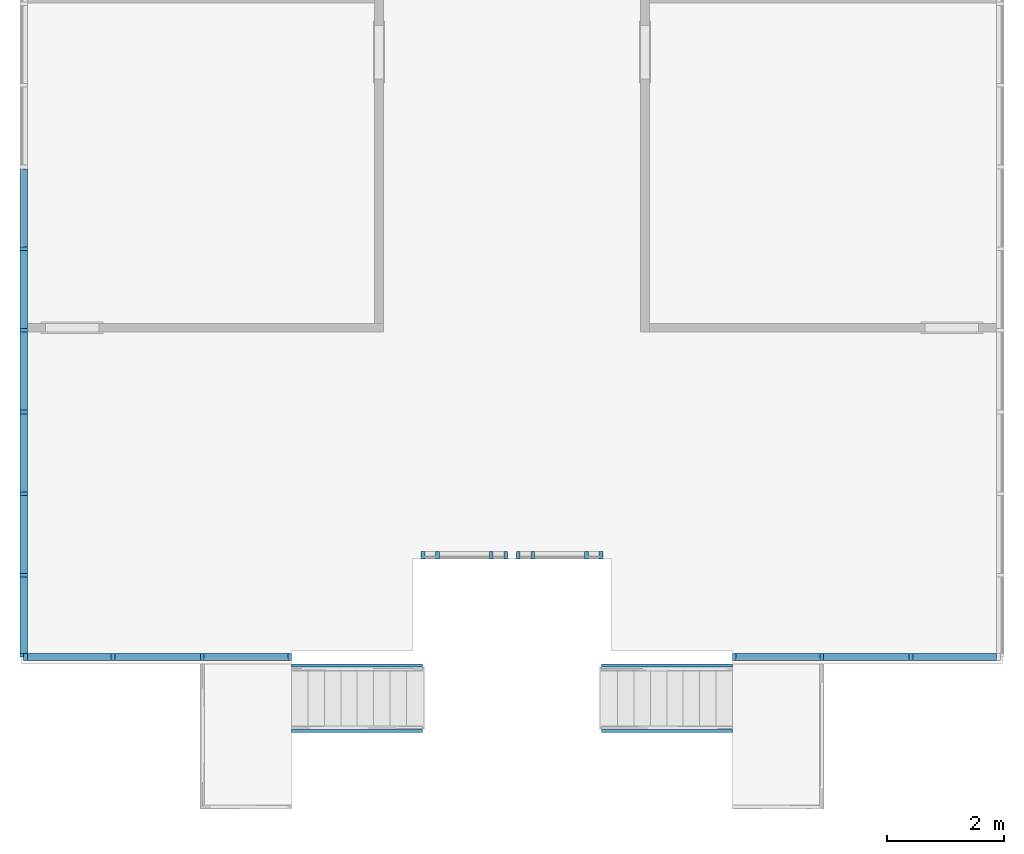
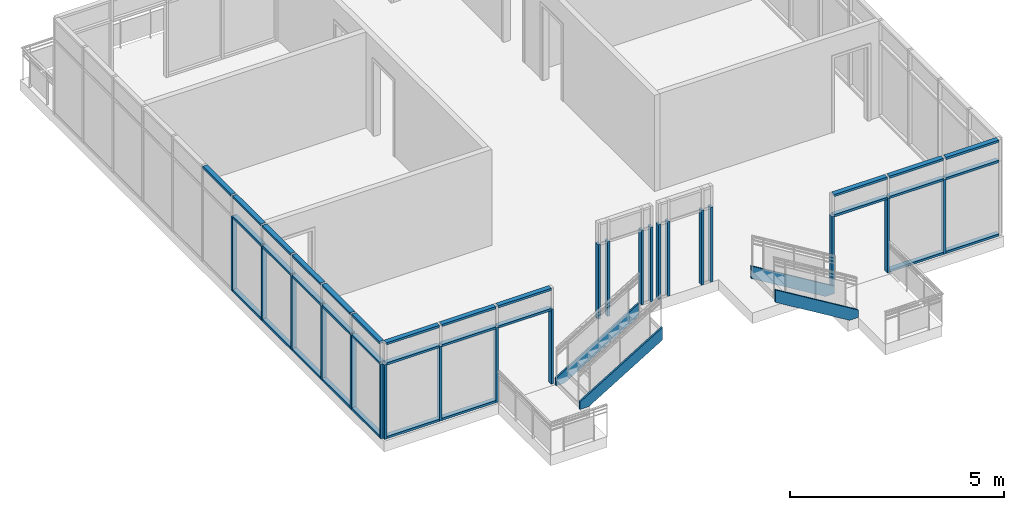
# One storey, part 1 of 11: 57 members, 6 elements without a shape of their own.
"""IFC2X3 building model written with IfcOpenShell, lengths in feet."""

from ifc_helpers import new_model, entity, si_unit, converted_unit, derived_unit, direction, frame, origin, origin_2d_with_axis, place, context, subcontext, project, spatial, polyline, rectangle, outline, extrude, source, transform, mapped, material, type_object, type_shapes, element, aggregate, save


model = new_model("IFC2X3")

# Units and contexts
model_context = context("Model", 3, precision=0.0001, world=origin(), true_north=direction((6.12303176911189e-17, 1.0)))
body_context = subcontext(model_context, "Body", "Model", "MODEL_VIEW")
ifc_project = project(units=[converted_unit("LENGTHUNIT", "FOOT", entity("IfcRatioMeasure", 0.3048), si_unit("LENGTHUNIT", "METRE"), dimensions=[1, 0, 0, 0, 0, 0, 0]), converted_unit("AREAUNIT", "SQUARE FOOT", entity("IfcRatioMeasure", 0.09290304), si_unit("AREAUNIT", "SQUARE_METRE"), dimensions=[2, 0, 0, 0, 0, 0, 0]), converted_unit("VOLUMEUNIT", "CUBIC FOOT", entity("IfcRatioMeasure", 0.028316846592), si_unit("VOLUMEUNIT", "CUBIC_METRE"), dimensions=[3, 0, 0, 0, 0, 0, 0]), converted_unit("PLANEANGLEUNIT", "DEGREE", entity("IfcRatioMeasure", 0.0174532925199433), si_unit("PLANEANGLEUNIT", "RADIAN"), dimensions=[0, 0, 0, 0, 0, 0, 0]), si_unit("MASSUNIT", "GRAM", prefix="KILO"), derived_unit("MASSDENSITYUNIT", [(si_unit("MASSUNIT", "GRAM", prefix="KILO"), 1), (si_unit("LENGTHUNIT", "METRE"), -3)]), si_unit("TIMEUNIT", "SECOND"), si_unit("FREQUENCYUNIT", "HERTZ"), si_unit("THERMODYNAMICTEMPERATUREUNIT", "DEGREE_CELSIUS"), derived_unit("THERMALTRANSMITTANCEUNIT", [(si_unit("MASSUNIT", "GRAM", prefix="KILO"), 1), (si_unit("THERMODYNAMICTEMPERATUREUNIT", "KELVIN"), -1), (si_unit("TIMEUNIT", "SECOND"), -3)]), derived_unit("VOLUMETRICFLOWRATEUNIT", [(si_unit("LENGTHUNIT", "METRE"), 3), (si_unit("TIMEUNIT", "SECOND"), -1)]), si_unit("ELECTRICCURRENTUNIT", "AMPERE"), si_unit("ELECTRICVOLTAGEUNIT", "VOLT"), si_unit("POWERUNIT", "WATT"), si_unit("FORCEUNIT", "NEWTON"), si_unit("ILLUMINANCEUNIT", "LUX"), si_unit("LUMINOUSFLUXUNIT", "LUMEN"), si_unit("LUMINOUSINTENSITYUNIT", "CANDELA"), derived_unit("USERDEFINED", [(si_unit("MASSUNIT", "GRAM", prefix="KILO"), -1), (si_unit("LENGTHUNIT", "METRE"), -2), (si_unit("TIMEUNIT", "SECOND"), 3), (si_unit("LUMINOUSFLUXUNIT", "LUMEN"), 1)]), derived_unit("LINEARVELOCITYUNIT", [(si_unit("LENGTHUNIT", "METRE"), 1), (si_unit("TIMEUNIT", "SECOND"), -1)]), si_unit("PRESSUREUNIT", "PASCAL"), derived_unit("USERDEFINED", [(si_unit("LENGTHUNIT", "METRE"), -2), (si_unit("MASSUNIT", "GRAM", prefix="KILO"), 1), (si_unit("TIMEUNIT", "SECOND"), -2)])], contexts=[model_context])

# Site, building, storey
site_placement = place(None, origin())
site = spatial("IfcSite", under=ifc_project, at=site_placement, Name="Default", CompositionType="ELEMENT")
building_placement = place(site_placement, origin())
building = spatial("IfcBuilding", under=site, at=building_placement, CompositionType="ELEMENT")
storey_placement = place(building_placement, frame((0.0, 0.0, 10.0)))
storey = spatial("IfcBuildingStorey", under=building, at=storey_placement, Name="Level 2", CompositionType="ELEMENT", Elevation=9.99999999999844)

# Stair, members
stair_placement = place(storey_placement, origin())
stair = element("IfcStair", 1, at=stair_placement, inside=storey, Name="Assembled Stair:Stair", ObjectType="Assembled Stair:7\" max riser 11\" tread", ShapeType="NOTDEFINED")
member_type_1 = type_object("IfcMemberType", Name="Stringer:Stringer - 2\" Width", PredefinedType="STRINGER")
member_1_placement = place(stair_placement, origin())
member_1 = element("IfcMember", 2, at=member_1_placement, type_object=member_type_1, Name="Assembled Stair:Stair:189410 Stringer 1", ObjectType="Assembled Stair:7\" max riser 11\" tread", context=body_context, shape_type="SweptSolid", body=[
    extrude(outline(polyline([(-3.29811864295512, -0.519028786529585), (5.27689530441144, -0.519028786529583), (4.67083469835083, 0.480971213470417), (-2.99079942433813, 0.480971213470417), (-3.65881193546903, 0.0761151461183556), (-3.29811864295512, -0.519028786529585)])), frame((-43.2356053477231, -7.50364126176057, 1.96146201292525), z_axis=(0.0, 1.0, 0.0), x_axis=(0.855197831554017, 0.0, 0.518301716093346)), (0.0, 0.0, 1.0), 0.166666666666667),
])
member_2_placement = place(stair_placement, origin())
member_2 = element("IfcMember", 3, at=member_2_placement, type_object=member_type_1, Name="Assembled Stair:Stair:189410 Stringer 2", ObjectType="Assembled Stair:7\" max riser 11\" tread", context=body_context, shape_type="SweptSolid", body=[
    extrude(outline(polyline([(-3.29811864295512, -0.519028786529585), (5.27689530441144, -0.519028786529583), (4.67083469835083, 0.480971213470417), (-2.99079942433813, 0.480971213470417), (-3.65881193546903, 0.0761151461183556), (-3.29811864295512, -0.519028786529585)])), frame((-43.2356053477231, -11.1703079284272, 1.96146201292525), z_axis=(0.0, 1.0, 0.0), x_axis=(0.855197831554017, 0.0, 0.518301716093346)), (0.0, 0.0, 1.0), 0.166666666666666),
])
member_3_placement = place(stair_placement, origin())
member_3 = element("IfcMember", 4, at=member_3_placement, type_object=member_type_1, Name="Assembled Stair:Stair:189410 Stringer 3", ObjectType="Assembled Stair:7\" max riser 11\" tread", context=body_context, shape_type="SweptSolid", body=[
    extrude(outline(polyline([(-3.08955742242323, -1.96146201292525), (-2.30843697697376, -1.96146201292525), (4.2437759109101, 2.00957610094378), (4.24377591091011, 3.17889618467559), (-3.08955742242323, -1.26554825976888), (-3.08955742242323, -1.96146201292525)])), frame((-24.7480535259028, -7.50364126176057, 1.96146201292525), z_axis=(0.0, 1.0, 0.0), x_axis=(-1.0, 0.0, 0.0)), (0.0, 0.0, 1.0), 0.166666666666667),
])
member_4_placement = place(stair_placement, origin())
member_4 = element("IfcMember", 5, at=member_4_placement, type_object=member_type_1, Name="Assembled Stair:Stair:189410 Stringer 4", ObjectType="Assembled Stair:7\" max riser 11\" tread", context=body_context, shape_type="SweptSolid", body=[
    extrude(outline(polyline([(-3.08955742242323, -1.96146201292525), (-2.30843697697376, -1.96146201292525), (4.2437759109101, 2.00957610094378), (4.24377591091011, 3.17889618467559), (-3.08955742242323, -1.26554825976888), (-3.08955742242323, -1.96146201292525)])), frame((-24.7480535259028, -11.1703079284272, 1.96146201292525), z_axis=(0.0, 1.0, 0.0), x_axis=(-1.0, 0.0, 0.0)), (0.0, 0.0, 1.0), 0.166666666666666),
])
aggregate(stair, [member_1, member_2, member_3, member_4])

# Curtain wall, members
curtain_wall_type = type_object("IfcCurtainWallType", Name="Curtain Wall:Storefront 2", PredefinedType="NOTDEFINED")
curtain_wall_1_placement = place(storey_placement, frame((0.0, 0.0, -10.0)))
curtain_wall_1 = element("IfcCurtainWall", 6, at=curtain_wall_1_placement, inside=storey, type_object=curtain_wall_type, Name="Curtain Wall:Storefront 2", ObjectType="Curtain Wall:Storefront 2")
ifc_material = material(Name="Aluminum")
member_type_2 = type_object("IfcMemberType", Name="2.5\" x 5\" rectangular", PredefinedType="MEMBER")
shared_shape_1 = source(origin(), body_context, "Body", "SweptSolid", [
    extrude(rectangle(XDim=0.416666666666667, YDim=0.208333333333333, at=origin_2d_with_axis()), frame((-0.104166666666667, 0.0, -4.6875), z_axis=(0.0, 0.0, 1.0), x_axis=(0.0, -1.0, 0.0)), (0.0, 0.0, 1.0), 4.6875),
])
type_shapes(member_type_2, [shared_shape_1])
member_5_placement = place(storey_placement, frame((-61.1168294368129, -6.94114126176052, 9.0), z_axis=(-1.0, 0.0, 0.0), x_axis=(0.0, 0.0, 1.0)))
member_5 = element("IfcMember", 7, at=member_5_placement, type_object=member_type_2, material=ifc_material, Name="Rectangular Mullion:2.5\" x 5\" rectangular", ObjectType="2.5\" x 5\" rectangular", context=body_context, shape_type="MappedRepresentation", body=[
    mapped(shared_shape_1, transform((0.0, 0.0, 0.0), scale=1.0)),
])
member_6_placement = place(storey_placement, frame((-51.2209961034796, -6.94114126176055, 9.0), z_axis=(-1.0, 0.0, 0.0), x_axis=(0.0, 0.0, 1.0)))
member_6 = element("IfcMember", 8, at=member_6_placement, type_object=member_type_2, material=ifc_material, Name="Rectangular Mullion:2.5\" x 5\" rectangular", ObjectType="2.5\" x 5\" rectangular", context=body_context, shape_type="MappedRepresentation", body=[
    mapped(shared_shape_1, transform((0.0, 0.0, 0.0), scale=1.0)),
])

curtain_wall_2_placement = place(storey_placement, frame((0.0, 0.0, -10.0)))
curtain_wall_2 = element("IfcCurtainWall", 9, at=curtain_wall_2_placement, inside=storey, type_object=curtain_wall_type, Name="Curtain Wall:Storefront 2", ObjectType="Curtain Wall:Storefront 2")
member_7_placement = place(storey_placement, frame((-21.4501627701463, -6.94114126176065, 9.0), z_axis=(-1.0, 0.0, 0.0), x_axis=(0.0, 0.0, 1.0)))
member_7 = element("IfcMember", 10, at=member_7_placement, type_object=member_type_2, material=ifc_material, Name="Rectangular Mullion:2.5\" x 5\" rectangular", ObjectType="2.5\" x 5\" rectangular", context=body_context, shape_type="MappedRepresentation", body=[
    mapped(shared_shape_1, transform((0.0, 0.0, 0.0), scale=1.0)),
])
member_8_placement = place(storey_placement, frame((-11.5543294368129, -6.94114126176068, 9.0), z_axis=(-1.0, 0.0, 0.0), x_axis=(0.0, 0.0, 1.0)))
member_8 = element("IfcMember", 11, at=member_8_placement, type_object=member_type_2, material=ifc_material, Name="Rectangular Mullion:2.5\" x 5\" rectangular", ObjectType="2.5\" x 5\" rectangular", context=body_context, shape_type="MappedRepresentation", body=[
    mapped(shared_shape_1, transform((0.0, 0.0, 0.0), scale=1.0)),
])

# Member
member_type_3 = type_object("IfcMemberType", Name="2.5\" x 5\" rectangular", PredefinedType="MEMBER")
shared_shape_2 = source(origin(), body_context, "Body", "SweptSolid", [
    extrude(rectangle(XDim=0.416666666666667, YDim=0.208333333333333, at=origin_2d_with_axis()), frame((-0.104166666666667, 0.0, -4.6875), z_axis=(0.0, 0.0, 1.0), x_axis=(0.0, -1.0, 0.0)), (0.0, 0.0, 1.0), 4.6875),
])
type_shapes(member_type_3, [shared_shape_2])
member_9_placement = place(storey_placement, frame((-56.429329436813, -6.94114126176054, 0.0), z_axis=(1.0, 0.0, 0.0), x_axis=(0.0, 0.0, -1.0)))
member_9 = element("IfcMember", 12, at=member_9_placement, type_object=member_type_3, material=ifc_material, Name="Rectangular Mullion:2.5\" x 5\" rectangular", ObjectType="2.5\" x 5\" rectangular", context=body_context, shape_type="MappedRepresentation", body=[
    mapped(shared_shape_2, transform((0.0, 0.0, 0.0), scale=1.0)),
])

member_10_placement = place(storey_placement, frame((-6.86682943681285, -6.94114126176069, 0.0), z_axis=(1.0, 0.0, 0.0), x_axis=(0.0, 0.0, -1.0)))
member_10 = element("IfcMember", 13, at=member_10_placement, type_object=member_type_3, material=ifc_material, Name="Rectangular Mullion:2.5\" x 5\" rectangular", ObjectType="2.5\" x 5\" rectangular", context=body_context, shape_type="MappedRepresentation", body=[
    mapped(shared_shape_2, transform((0.0, 0.0, 0.0), scale=1.0)),
])

member_type_4 = type_object("IfcMemberType", Name="2.5\" x 5\" rectangular", PredefinedType="MEMBER")
shared_shape_3 = source(origin(), body_context, "Body", "SweptSolid", [
    extrude(rectangle(XDim=0.416666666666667, YDim=0.208333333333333, at=origin_2d_with_axis()), frame((0.0, 0.0, -4.6875), z_axis=(0.0, 0.0, 1.0), x_axis=(0.0, -1.0, 0.0)), (0.0, 0.0, 1.0), 4.6875),
])
type_shapes(member_type_4, [shared_shape_3])
member_11_placement = place(storey_placement, frame((-51.2209961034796, -6.94114126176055, 7.0), z_axis=(-1.0, 0.0, 0.0), x_axis=(0.0, 0.0, 1.0)))
member_11 = element("IfcMember", 14, at=member_11_placement, type_object=member_type_4, material=ifc_material, Name="Rectangular Mullion:2.5\" x 5\" rectangular", ObjectType="2.5\" x 5\" rectangular", context=body_context, shape_type="MappedRepresentation", body=[
    mapped(shared_shape_3, transform((0.0, 0.0, 0.0), scale=1.0)),
])

member_12_placement = place(storey_placement, frame((-61.1168294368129, -6.94114126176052, 7.0), z_axis=(-1.0, 0.0, 0.0), x_axis=(0.0, 0.0, 1.0)))
member_12 = element("IfcMember", 15, at=member_12_placement, type_object=member_type_4, material=ifc_material, Name="Rectangular Mullion:2.5\" x 5\" rectangular", ObjectType="2.5\" x 5\" rectangular", context=body_context, shape_type="MappedRepresentation", body=[
    mapped(shared_shape_3, transform((0.0, 0.0, 0.0), scale=1.0)),
])

member_13_placement = place(storey_placement, frame((-11.5543294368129, -6.94114126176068, 7.0), z_axis=(-1.0, 0.0, 0.0), x_axis=(0.0, 0.0, 1.0)))
member_13 = element("IfcMember", 16, at=member_13_placement, type_object=member_type_4, material=ifc_material, Name="Rectangular Mullion:2.5\" x 5\" rectangular", ObjectType="2.5\" x 5\" rectangular", context=body_context, shape_type="MappedRepresentation", body=[
    mapped(shared_shape_3, transform((0.0, 0.0, 0.0), scale=1.0)),
])

member_14_placement = place(storey_placement, frame((-21.4501627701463, -6.94114126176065, 7.0), z_axis=(-1.0, 0.0, 0.0), x_axis=(0.0, 0.0, 1.0)))
member_14 = element("IfcMember", 17, at=member_14_placement, type_object=member_type_4, material=ifc_material, Name="Rectangular Mullion:2.5\" x 5\" rectangular", ObjectType="2.5\" x 5\" rectangular", context=body_context, shape_type="MappedRepresentation", body=[
    mapped(shared_shape_3, transform((0.0, 0.0, 0.0), scale=1.0)),
])

member_type_5 = type_object("IfcMemberType", Name="2.5\" x 5\" rectangular", PredefinedType="MEMBER")
shared_shape_4 = source(origin(), body_context, "Body", "SweptSolid", [
    extrude(rectangle(XDim=0.416666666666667, YDim=0.208333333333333, at=origin_2d_with_axis()), frame((-0.104166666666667, 0.0, -4.79166666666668), z_axis=(0.0, 0.0, 1.0), x_axis=(0.0, -1.0, 0.0)), (0.0, 0.0, 1.0), 4.79166666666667),
])
type_shapes(member_type_5, [shared_shape_4])
member_15_placement = place(storey_placement, frame((-56.2209961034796, -6.94114126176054, 9.0), z_axis=(-1.0, 0.0, 0.0), x_axis=(0.0, 0.0, 1.0)))
member_15 = element("IfcMember", 18, at=member_15_placement, type_object=member_type_5, material=ifc_material, Name="Rectangular Mullion:2.5\" x 5\" rectangular", ObjectType="2.5\" x 5\" rectangular", context=body_context, shape_type="MappedRepresentation", body=[
    mapped(shared_shape_4, transform((0.0, 0.0, 0.0), scale=1.0)),
])

member_16_placement = place(storey_placement, frame((-16.554329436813, -6.94114126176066, 9.0), z_axis=(-1.0, 0.0, 0.0), x_axis=(0.0, 0.0, 1.0)))
member_16 = element("IfcMember", 19, at=member_16_placement, type_object=member_type_5, material=ifc_material, Name="Rectangular Mullion:2.5\" x 5\" rectangular", ObjectType="2.5\" x 5\" rectangular", context=body_context, shape_type="MappedRepresentation", body=[
    mapped(shared_shape_4, transform((0.0, 0.0, 0.0), scale=1.0)),
])

member_type_6 = type_object("IfcMemberType", Name="2.5\" x 5\" rectangular", PredefinedType="MEMBER")
shared_shape_5 = source(origin(), body_context, "Body", "SweptSolid", [
    extrude(rectangle(XDim=0.416666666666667, YDim=0.208333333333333, at=origin_2d_with_axis()), frame((-0.104166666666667, 0.0, -7.0), z_axis=(0.0, 0.0, 1.0), x_axis=(0.0, -1.0, 0.0)), (0.0, 0.0, 1.0), 7.0),
])
type_shapes(member_type_6, [shared_shape_5])
member_17_placement = place(storey_placement, frame((-61.3251627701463, -6.94114126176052, 0.0), z_axis=(0.0, 0.0, -1.0), x_axis=(-1.0, 0.0, 0.0)))
member_17 = element("IfcMember", 20, at=member_17_placement, type_object=member_type_6, material=ifc_material, Name="Rectangular Mullion:2.5\" x 5\" rectangular", ObjectType="2.5\" x 5\" rectangular", context=body_context, shape_type="MappedRepresentation", body=[
    mapped(shared_shape_5, transform((0.0, 0.0, 0.0), scale=1.0)),
])

# Curtain wall, member
curtain_wall_3_placement = place(storey_placement, frame((0.0, 0.0, -10.0)))
curtain_wall_3 = element("IfcCurtainWall", 21, at=curtain_wall_3_placement, inside=storey, type_object=curtain_wall_type, Name="Curtain Wall:Storefront 2", ObjectType="Curtain Wall:Storefront 2")
member_18_placement = place(storey_placement, frame((-39.0751627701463, -1.23280792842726, 0.0), z_axis=(0.0, 0.0, -1.0), x_axis=(-1.0, 0.0, 0.0)))
member_18 = element("IfcMember", 22, at=member_18_placement, type_object=member_type_6, material=ifc_material, Name="Rectangular Mullion:2.5\" x 5\" rectangular", ObjectType="2.5\" x 5\" rectangular", context=body_context, shape_type="MappedRepresentation", body=[
    mapped(shared_shape_5, transform((0.0, 0.0, 0.0), scale=1.0)),
])

curtain_wall_4_placement = place(storey_placement, frame((0.0, 0.0, -10.0)))
curtain_wall_4 = element("IfcCurtainWall", 23, at=curtain_wall_4_placement, inside=storey, type_object=curtain_wall_type, Name="Curtain Wall:Storefront 2", ObjectType="Curtain Wall:Storefront 2")
member_19_placement = place(storey_placement, frame((-33.7418294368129, -1.23280792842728, 0.0), z_axis=(0.0, 0.0, -1.0), x_axis=(-1.0, 0.0, 0.0)))
member_19 = element("IfcMember", 24, at=member_19_placement, type_object=member_type_6, material=ifc_material, Name="Rectangular Mullion:2.5\" x 5\" rectangular", ObjectType="2.5\" x 5\" rectangular", context=body_context, shape_type="MappedRepresentation", body=[
    mapped(shared_shape_5, transform((0.0, 0.0, 0.0), scale=1.0)),
])

# Member
member_type_7 = type_object("IfcMemberType", Name="2.5\" x 5\" rectangular", PredefinedType="MEMBER")
shared_shape_6 = source(origin(), body_context, "Body", "SweptSolid", [
    extrude(rectangle(XDim=0.416666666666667, YDim=0.208333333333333, at=origin_2d_with_axis()), frame((-0.104166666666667, 0.0, -7.0), z_axis=(0.0, 0.0, 1.0), x_axis=(0.0, -1.0, 0.0)), (0.0, 0.0, 1.0), 7.0),
])
type_shapes(member_type_7, [shared_shape_6])
member_20_placement = place(storey_placement, frame((-34.2418294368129, -1.23280792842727, 7.0)))
member_20 = element("IfcMember", 25, at=member_20_placement, type_object=member_type_7, material=ifc_material, Name="Rectangular Mullion:2.5\" x 5\" rectangular", ObjectType="2.5\" x 5\" rectangular", context=body_context, shape_type="MappedRepresentation", body=[
    mapped(shared_shape_6, transform((0.0, 0.0, 0.0), scale=1.0)),
])

member_21_placement = place(storey_placement, frame((-28.9084961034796, -1.23280792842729, 7.0)))
member_21 = element("IfcMember", 26, at=member_21_placement, type_object=member_type_7, material=ifc_material, Name="Rectangular Mullion:2.5\" x 5\" rectangular", ObjectType="2.5\" x 5\" rectangular", context=body_context, shape_type="MappedRepresentation", body=[
    mapped(shared_shape_6, transform((0.0, 0.0, 0.0), scale=1.0)),
])

# Curtain wall, member
curtain_wall_5_placement = place(storey_placement, frame((0.0, 0.0, -10.0)))
curtain_wall_5 = element("IfcCurtainWall", 27, at=curtain_wall_5_placement, inside=storey, type_object=curtain_wall_type, Name="Curtain Wall:Storefront 2", ObjectType="Curtain Wall:Storefront 2")
member_22_placement = place(storey_placement, frame((-61.3251627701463, -6.94114126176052, 7.0), z_axis=(0.0, 0.0, 1.0), x_axis=(0.0, -1.0, 0.0)))
member_22 = element("IfcMember", 28, at=member_22_placement, type_object=member_type_7, material=ifc_material, Name="Rectangular Mullion:2.5\" x 5\" rectangular", ObjectType="2.5\" x 5\" rectangular", context=body_context, shape_type="MappedRepresentation", body=[
    mapped(shared_shape_6, transform((0.0, 0.0, 0.0), scale=1.0)),
])

# Member
member_type_8 = type_object("IfcMemberType", Name="2.5\" x 5\" rectangular", PredefinedType="MEMBER")
shared_shape_7 = source(origin(), body_context, "Body", "SweptSolid", [
    extrude(rectangle(XDim=0.416666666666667, YDim=0.208333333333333, at=origin_2d_with_axis()), frame((0.0, 0.0, -4.79166666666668), z_axis=(0.0, 0.0, 1.0), x_axis=(0.0, -1.0, 0.0)), (0.0, 0.0, 1.0), 4.79166666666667),
])
type_shapes(member_type_8, [shared_shape_7])
member_23_placement = place(storey_placement, frame((-56.2209961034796, -6.94114126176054, 7.0), z_axis=(-1.0, 0.0, 0.0), x_axis=(0.0, 0.0, 1.0)))
member_23 = element("IfcMember", 29, at=member_23_placement, type_object=member_type_8, material=ifc_material, Name="Rectangular Mullion:2.5\" x 5\" rectangular", ObjectType="2.5\" x 5\" rectangular", context=body_context, shape_type="MappedRepresentation", body=[
    mapped(shared_shape_7, transform((0.0, 0.0, 0.0), scale=1.0)),
])

member_24_placement = place(storey_placement, frame((-16.554329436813, -6.94114126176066, 7.0), z_axis=(-1.0, 0.0, 0.0), x_axis=(0.0, 0.0, 1.0)))
member_24 = element("IfcMember", 30, at=member_24_placement, type_object=member_type_8, material=ifc_material, Name="Rectangular Mullion:2.5\" x 5\" rectangular", ObjectType="2.5\" x 5\" rectangular", context=body_context, shape_type="MappedRepresentation", body=[
    mapped(shared_shape_7, transform((0.0, 0.0, 0.0), scale=1.0)),
])

member_type_9 = type_object("IfcMemberType", Name="2.5\" x 5\" rectangular", PredefinedType="MEMBER")
shared_shape_8 = source(origin(), body_context, "Body", "SweptSolid", [
    extrude(rectangle(XDim=0.416666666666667, YDim=0.208333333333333, at=origin_2d_with_axis()), frame((0.0, 0.0, -7.0), z_axis=(0.0, 0.0, 1.0), x_axis=(0.0, -1.0, 0.0)), (0.0, 0.0, 1.0), 7.0),
])
type_shapes(member_type_9, [shared_shape_8])
member_25_placement = place(storey_placement, frame((-51.3251627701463, -6.94114126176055, 0.0), z_axis=(0.0, 0.0, -1.0), x_axis=(-1.0, 0.0, 0.0)))
member_25 = element("IfcMember", 31, at=member_25_placement, type_object=member_type_9, material=ifc_material, Name="Rectangular Mullion:2.5\" x 5\" rectangular", ObjectType="2.5\" x 5\" rectangular", context=body_context, shape_type="MappedRepresentation", body=[
    mapped(shared_shape_8, transform((0.0, 0.0, 0.0), scale=1.0)),
])

member_26_placement = place(storey_placement, frame((-56.3251627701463, -6.94114126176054, 0.0), z_axis=(0.0, 0.0, -1.0), x_axis=(-1.0, 0.0, 0.0)))
member_26 = element("IfcMember", 32, at=member_26_placement, type_object=member_type_9, material=ifc_material, Name="Rectangular Mullion:2.5\" x 5\" rectangular", ObjectType="2.5\" x 5\" rectangular", context=body_context, shape_type="MappedRepresentation", body=[
    mapped(shared_shape_8, transform((0.0, 0.0, 0.0), scale=1.0)),
])

member_27_placement = place(storey_placement, frame((-11.6584961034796, -6.94114126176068, 0.0), z_axis=(0.0, 0.0, -1.0), x_axis=(-1.0, 0.0, 0.0)))
member_27 = element("IfcMember", 33, at=member_27_placement, type_object=member_type_9, material=ifc_material, Name="Rectangular Mullion:2.5\" x 5\" rectangular", ObjectType="2.5\" x 5\" rectangular", context=body_context, shape_type="MappedRepresentation", body=[
    mapped(shared_shape_8, transform((0.0, 0.0, 0.0), scale=1.0)),
])

member_28_placement = place(storey_placement, frame((-16.6584961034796, -6.94114126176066, 0.0), z_axis=(0.0, 0.0, -1.0), x_axis=(-1.0, 0.0, 0.0)))
member_28 = element("IfcMember", 34, at=member_28_placement, type_object=member_type_9, material=ifc_material, Name="Rectangular Mullion:2.5\" x 5\" rectangular", ObjectType="2.5\" x 5\" rectangular", context=body_context, shape_type="MappedRepresentation", body=[
    mapped(shared_shape_8, transform((0.0, 0.0, 0.0), scale=1.0)),
])

member_29_placement = place(storey_placement, frame((-35.1584961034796, -1.23280792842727, 0.0), z_axis=(0.0, 0.0, -1.0), x_axis=(-1.0, 0.0, 0.0)))
member_29 = element("IfcMember", 35, at=member_29_placement, type_object=member_type_9, material=ifc_material, Name="Rectangular Mullion:2.5\" x 5\" rectangular", ObjectType="2.5\" x 5\" rectangular", context=body_context, shape_type="MappedRepresentation", body=[
    mapped(shared_shape_8, transform((0.0, 0.0, 0.0), scale=1.0)),
])

member_30_placement = place(storey_placement, frame((-38.1584961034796, -1.23280792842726, 0.0), z_axis=(0.0, 0.0, -1.0), x_axis=(-1.0, 0.0, 0.0)))
member_30 = element("IfcMember", 36, at=member_30_placement, type_object=member_type_9, material=ifc_material, Name="Rectangular Mullion:2.5\" x 5\" rectangular", ObjectType="2.5\" x 5\" rectangular", context=body_context, shape_type="MappedRepresentation", body=[
    mapped(shared_shape_8, transform((0.0, 0.0, 0.0), scale=1.0)),
])

aggregate(curtain_wall_3, [member_18, member_20, member_29, member_30])

member_31_placement = place(storey_placement, frame((-29.8251627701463, -1.23280792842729, 0.0), z_axis=(0.0, 0.0, -1.0), x_axis=(-1.0, 0.0, 0.0)))
member_31 = element("IfcMember", 37, at=member_31_placement, type_object=member_type_9, material=ifc_material, Name="Rectangular Mullion:2.5\" x 5\" rectangular", ObjectType="2.5\" x 5\" rectangular", context=body_context, shape_type="MappedRepresentation", body=[
    mapped(shared_shape_8, transform((0.0, 0.0, 0.0), scale=1.0)),
])

member_32_placement = place(storey_placement, frame((-32.8251627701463, -1.23280792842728, 0.0), z_axis=(0.0, 0.0, -1.0), x_axis=(-1.0, 0.0, 0.0)))
member_32 = element("IfcMember", 38, at=member_32_placement, type_object=member_type_9, material=ifc_material, Name="Rectangular Mullion:2.5\" x 5\" rectangular", ObjectType="2.5\" x 5\" rectangular", context=body_context, shape_type="MappedRepresentation", body=[
    mapped(shared_shape_8, transform((0.0, 0.0, 0.0), scale=1.0)),
])

aggregate(curtain_wall_4, [member_19, member_21, member_31, member_32])

member_33_placement = place(storey_placement, frame((-61.3251627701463, -2.36917156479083, 0.0), z_axis=(0.0, 0.0, -1.0), x_axis=(0.0, 1.0, 0.0)))
member_33 = element("IfcMember", 39, at=member_33_placement, type_object=member_type_9, material=ifc_material, Name="Rectangular Mullion:2.5\" x 5\" rectangular", ObjectType="2.5\" x 5\" rectangular", context=body_context, shape_type="MappedRepresentation", body=[
    mapped(shared_shape_8, transform((0.0, 0.0, 0.0), scale=1.0)),
])

member_34_placement = place(storey_placement, frame((-61.3251627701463, 2.20279813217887, 0.0), z_axis=(0.0, 0.0, -1.0), x_axis=(0.0, 1.0, 0.0)))
member_34 = element("IfcMember", 40, at=member_34_placement, type_object=member_type_9, material=ifc_material, Name="Rectangular Mullion:2.5\" x 5\" rectangular", ObjectType="2.5\" x 5\" rectangular", context=body_context, shape_type="MappedRepresentation", body=[
    mapped(shared_shape_8, transform((0.0, 0.0, 0.0), scale=1.0)),
])

member_35_placement = place(storey_placement, frame((-61.3251627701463, 6.77476782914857, 0.0), z_axis=(0.0, 0.0, -1.0), x_axis=(0.0, 1.0, 0.0)))
member_35 = element("IfcMember", 41, at=member_35_placement, type_object=member_type_9, material=ifc_material, Name="Rectangular Mullion:2.5\" x 5\" rectangular", ObjectType="2.5\" x 5\" rectangular", context=body_context, shape_type="MappedRepresentation", body=[
    mapped(shared_shape_8, transform((0.0, 0.0, 0.0), scale=1.0)),
])

member_36_placement = place(storey_placement, frame((-61.3251627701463, 11.3467375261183, 0.0), z_axis=(0.0, 0.0, -1.0), x_axis=(0.0, 1.0, 0.0)))
member_36 = element("IfcMember", 42, at=member_36_placement, type_object=member_type_9, material=ifc_material, Name="Rectangular Mullion:2.5\" x 5\" rectangular", ObjectType="2.5\" x 5\" rectangular", context=body_context, shape_type="MappedRepresentation", body=[
    mapped(shared_shape_8, transform((0.0, 0.0, 0.0), scale=1.0)),
])

member_37_placement = place(storey_placement, frame((-61.3251627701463, 15.918707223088, 0.0), z_axis=(0.0, 0.0, -1.0), x_axis=(0.0, 1.0, 0.0)))
member_37 = element("IfcMember", 43, at=member_37_placement, type_object=member_type_9, material=ifc_material, Name="Rectangular Mullion:2.5\" x 5\" rectangular", ObjectType="2.5\" x 5\" rectangular", context=body_context, shape_type="MappedRepresentation", body=[
    mapped(shared_shape_8, transform((0.0, 0.0, 0.0), scale=1.0)),
])

member_type_10 = type_object("IfcMemberType", Name="2.5\" x 5\" rectangular", PredefinedType="MEMBER")
shared_shape_9 = source(origin(), body_context, "Body", "SweptSolid", [
    extrude(rectangle(XDim=0.416666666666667, YDim=0.208333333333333, at=origin_2d_with_axis()), frame((-0.104166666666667, 0.0, -7.0), z_axis=(0.0, 0.0, 1.0), x_axis=(0.0, -1.0, 0.0)), (0.0, 0.0, 1.0), 7.0),
])
type_shapes(member_type_10, [shared_shape_9])
member_38_placement = place(storey_placement, frame((-46.3251627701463, -6.94114126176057, 7.0)))
member_38 = element("IfcMember", 44, at=member_38_placement, type_object=member_type_10, material=ifc_material, Name="Rectangular Mullion:2.5\" x 5\" rectangular", ObjectType="2.5\" x 5\" rectangular", context=body_context, shape_type="MappedRepresentation", body=[
    mapped(shared_shape_9, transform((0.0, 0.0, 0.0), scale=1.0)),
])

member_type_11 = type_object("IfcMemberType", Name="2.5\" x 5\" rectangular", PredefinedType="MEMBER")
shared_shape_10 = source(origin(), body_context, "Body", "SweptSolid", [
    extrude(rectangle(XDim=0.416666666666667, YDim=0.208333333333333, at=origin_2d_with_axis()), frame((-0.104166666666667, 0.0, -4.79166666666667), z_axis=(0.0, 0.0, 1.0), x_axis=(0.0, -1.0, 0.0)), (0.0, 0.0, 1.0), 4.79166666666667),
])
type_shapes(member_type_11, [shared_shape_10])
member_39_placement = place(storey_placement, frame((-51.4293294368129, -6.94114126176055, 0.0), z_axis=(1.0, 0.0, 0.0), x_axis=(0.0, 0.0, -1.0)))
member_39 = element("IfcMember", 45, at=member_39_placement, type_object=member_type_11, material=ifc_material, Name="Rectangular Mullion:2.5\" x 5\" rectangular", ObjectType="2.5\" x 5\" rectangular", context=body_context, shape_type="MappedRepresentation", body=[
    mapped(shared_shape_10, transform((0.0, 0.0, 0.0), scale=1.0)),
])

aggregate(curtain_wall_1, [member_5, member_6, member_15, member_9, member_17, member_38, member_11, member_23, member_12, member_25, member_26, member_39])

member_40_placement = place(storey_placement, frame((-11.7626627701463, -6.94114126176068, 0.0), z_axis=(1.0, 0.0, 0.0), x_axis=(0.0, 0.0, -1.0)))
member_40 = element("IfcMember", 46, at=member_40_placement, type_object=member_type_11, material=ifc_material, Name="Rectangular Mullion:2.5\" x 5\" rectangular", ObjectType="2.5\" x 5\" rectangular", context=body_context, shape_type="MappedRepresentation", body=[
    mapped(shared_shape_10, transform((0.0, 0.0, 0.0), scale=1.0)),
])

member_type_12 = type_object("IfcMemberType", Name="2.5\" x 5\" rectangular", PredefinedType="MEMBER")
shared_shape_11 = source(origin(), body_context, "Body", "SweptSolid", [
    extrude(rectangle(XDim=0.416666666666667, YDim=0.208333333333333, at=origin_2d_with_axis()), frame((-0.104166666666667, 0.0, -7.0), z_axis=(0.0, 0.0, 1.0), x_axis=(0.0, -1.0, 0.0)), (0.0, 0.0, 1.0), 7.0),
])
type_shapes(member_type_12, [shared_shape_11])
member_41_placement = place(storey_placement, frame((-21.6584961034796, -6.94114126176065, 0.0), z_axis=(0.0, 0.0, -1.0), x_axis=(-1.0, 0.0, 0.0)))
member_41 = element("IfcMember", 47, at=member_41_placement, type_object=member_type_12, material=ifc_material, Name="Rectangular Mullion:2.5\" x 5\" rectangular", ObjectType="2.5\" x 5\" rectangular", context=body_context, shape_type="MappedRepresentation", body=[
    mapped(shared_shape_11, transform((0.0, 0.0, 0.0), scale=1.0)),
])

aggregate(curtain_wall_2, [member_7, member_8, member_16, member_10, member_41, member_13, member_24, member_14, member_27, member_28, member_40])

member_type_13 = type_object("IfcMemberType", Name="2.5\" x 5\" rectangular", PredefinedType="MEMBER")
shared_shape_12 = source(origin(), body_context, "Body", "SweptSolid", [
    extrude(rectangle(XDim=0.416666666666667, YDim=0.208333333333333, at=origin_2d_with_axis()), frame((-0.104166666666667, 0.0, -4.25946969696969), z_axis=(0.0, 0.0, 1.0), x_axis=(0.0, -1.0, 0.0)), (0.0, 0.0, 1.0), 4.2594696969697),
])
type_shapes(member_type_13, [shared_shape_12])
member_42_placement = place(storey_placement, frame((-61.3251627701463, -2.47333823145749, 9.0), z_axis=(0.0, 1.0, 0.0), x_axis=(0.0, 0.0, 1.0)))
member_42 = element("IfcMember", 48, at=member_42_placement, type_object=member_type_13, material=ifc_material, Name="Rectangular Mullion:2.5\" x 5\" rectangular", ObjectType="2.5\" x 5\" rectangular", context=body_context, shape_type="MappedRepresentation", body=[
    mapped(shared_shape_12, transform((0.0, 0.0, 0.0), scale=1.0)),
])

member_type_14 = type_object("IfcMemberType", Name="2.5\" x 5\" rectangular", PredefinedType="MEMBER")
shared_shape_13 = source(origin(), body_context, "Body", "SweptSolid", [
    extrude(rectangle(XDim=0.416666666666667, YDim=0.208333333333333, at=origin_2d_with_axis()), frame((-0.104166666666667, 0.0, -4.36363636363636), z_axis=(0.0, 0.0, 1.0), x_axis=(0.0, -1.0, 0.0)), (0.0, 0.0, 1.0), 4.36363636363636),
])
type_shapes(member_type_14, [shared_shape_13])
member_43_placement = place(storey_placement, frame((-61.3251627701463, 2.0986314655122, 9.0), z_axis=(0.0, 1.0, 0.0), x_axis=(0.0, 0.0, 1.0)))
member_43 = element("IfcMember", 49, at=member_43_placement, type_object=member_type_14, material=ifc_material, Name="Rectangular Mullion:2.5\" x 5\" rectangular", ObjectType="2.5\" x 5\" rectangular", context=body_context, shape_type="MappedRepresentation", body=[
    mapped(shared_shape_13, transform((0.0, 0.0, 0.0), scale=1.0)),
])

member_44_placement = place(storey_placement, frame((-61.3251627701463, 6.6706011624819, 9.0), z_axis=(0.0, 1.0, 0.0), x_axis=(0.0, 0.0, 1.0)))
member_44 = element("IfcMember", 50, at=member_44_placement, type_object=member_type_14, material=ifc_material, Name="Rectangular Mullion:2.5\" x 5\" rectangular", ObjectType="2.5\" x 5\" rectangular", context=body_context, shape_type="MappedRepresentation", body=[
    mapped(shared_shape_13, transform((0.0, 0.0, 0.0), scale=1.0)),
])

member_45_placement = place(storey_placement, frame((-61.3251627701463, 11.2425708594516, 9.0), z_axis=(0.0, 1.0, 0.0), x_axis=(0.0, 0.0, 1.0)))
member_45 = element("IfcMember", 51, at=member_45_placement, type_object=member_type_14, material=ifc_material, Name="Rectangular Mullion:2.5\" x 5\" rectangular", ObjectType="2.5\" x 5\" rectangular", context=body_context, shape_type="MappedRepresentation", body=[
    mapped(shared_shape_13, transform((0.0, 0.0, 0.0), scale=1.0)),
])

member_46_placement = place(storey_placement, frame((-61.3251627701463, 15.8145405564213, 9.0), z_axis=(0.0, 1.0, 0.0), x_axis=(0.0, 0.0, 1.0)))
member_46 = element("IfcMember", 52, at=member_46_placement, type_object=member_type_14, material=ifc_material, Name="Rectangular Mullion:2.5\" x 5\" rectangular", ObjectType="2.5\" x 5\" rectangular", context=body_context, shape_type="MappedRepresentation", body=[
    mapped(shared_shape_13, transform((0.0, 0.0, 0.0), scale=1.0)),
])

member_47_placement = place(storey_placement, frame((-61.3251627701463, 20.386510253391, 9.0), z_axis=(0.0, 1.0, 0.0), x_axis=(0.0, 0.0, 1.0)))
member_47 = element("IfcMember", 53, at=member_47_placement, type_object=member_type_14, material=ifc_material, Name="Rectangular Mullion:2.5\" x 5\" rectangular", ObjectType="2.5\" x 5\" rectangular", context=body_context, shape_type="MappedRepresentation", body=[
    mapped(shared_shape_13, transform((0.0, 0.0, 0.0), scale=1.0)),
])

member_type_15 = type_object("IfcMemberType", Name="2.5\" x 5\" rectangular", PredefinedType="MEMBER")
shared_shape_14 = source(origin(), body_context, "Body", "SweptSolid", [
    extrude(rectangle(XDim=0.416666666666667, YDim=0.208333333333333, at=origin_2d_with_axis()), frame((-0.104166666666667, 0.0, -4.25946969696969), z_axis=(0.0, 0.0, 1.0), x_axis=(0.0, -1.0, 0.0)), (0.0, 0.0, 1.0), 4.25946969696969),
])
type_shapes(member_type_15, [shared_shape_14])
member_48_placement = place(storey_placement, frame((-61.3251627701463, -6.73280792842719, 0.0), z_axis=(0.0, -1.0, 0.0), x_axis=(0.0, 0.0, -1.0)))
member_48 = element("IfcMember", 54, at=member_48_placement, type_object=member_type_15, material=ifc_material, Name="Rectangular Mullion:2.5\" x 5\" rectangular", ObjectType="2.5\" x 5\" rectangular", context=body_context, shape_type="MappedRepresentation", body=[
    mapped(shared_shape_14, transform((0.0, 0.0, 0.0), scale=1.0)),
])

member_type_16 = type_object("IfcMemberType", Name="2.5\" x 5\" rectangular", PredefinedType="MEMBER")
shared_shape_15 = source(origin(), body_context, "Body", "SweptSolid", [
    extrude(rectangle(XDim=0.416666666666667, YDim=0.208333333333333, at=origin_2d_with_axis()), frame((-0.104166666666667, 0.0, -4.36363636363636), z_axis=(0.0, 0.0, 1.0), x_axis=(0.0, -1.0, 0.0)), (0.0, 0.0, 1.0), 4.36363636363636),
])
type_shapes(member_type_16, [shared_shape_15])
member_49_placement = place(storey_placement, frame((-61.3251627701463, -2.26500489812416, 0.0), z_axis=(0.0, -1.0, 0.0), x_axis=(0.0, 0.0, -1.0)))
member_49 = element("IfcMember", 55, at=member_49_placement, type_object=member_type_16, material=ifc_material, Name="Rectangular Mullion:2.5\" x 5\" rectangular", ObjectType="2.5\" x 5\" rectangular", context=body_context, shape_type="MappedRepresentation", body=[
    mapped(shared_shape_15, transform((0.0, 0.0, 0.0), scale=1.0)),
])

member_50_placement = place(storey_placement, frame((-61.3251627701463, 2.30696479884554, 0.0), z_axis=(0.0, -1.0, 0.0), x_axis=(0.0, 0.0, -1.0)))
member_50 = element("IfcMember", 56, at=member_50_placement, type_object=member_type_16, material=ifc_material, Name="Rectangular Mullion:2.5\" x 5\" rectangular", ObjectType="2.5\" x 5\" rectangular", context=body_context, shape_type="MappedRepresentation", body=[
    mapped(shared_shape_15, transform((0.0, 0.0, 0.0), scale=1.0)),
])

member_51_placement = place(storey_placement, frame((-61.3251627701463, 6.87893449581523, 0.0), z_axis=(0.0, -1.0, 0.0), x_axis=(0.0, 0.0, -1.0)))
member_51 = element("IfcMember", 57, at=member_51_placement, type_object=member_type_16, material=ifc_material, Name="Rectangular Mullion:2.5\" x 5\" rectangular", ObjectType="2.5\" x 5\" rectangular", context=body_context, shape_type="MappedRepresentation", body=[
    mapped(shared_shape_15, transform((0.0, 0.0, 0.0), scale=1.0)),
])

member_52_placement = place(storey_placement, frame((-61.3251627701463, 11.4509041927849, 0.0), z_axis=(0.0, -1.0, 0.0), x_axis=(0.0, 0.0, -1.0)))
member_52 = element("IfcMember", 58, at=member_52_placement, type_object=member_type_16, material=ifc_material, Name="Rectangular Mullion:2.5\" x 5\" rectangular", ObjectType="2.5\" x 5\" rectangular", context=body_context, shape_type="MappedRepresentation", body=[
    mapped(shared_shape_15, transform((0.0, 0.0, 0.0), scale=1.0)),
])

member_type_17 = type_object("IfcMemberType", Name="2.5\" x 5\" rectangular", PredefinedType="MEMBER")
shared_shape_16 = source(origin(), body_context, "Body", "SweptSolid", [
    extrude(rectangle(XDim=0.416666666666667, YDim=0.208333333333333, at=origin_2d_with_axis()), frame((0.0, 0.0, -4.2594696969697), z_axis=(0.0, 0.0, 1.0), x_axis=(0.0, -1.0, 0.0)), (0.0, 0.0, 1.0), 4.2594696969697),
])
type_shapes(member_type_17, [shared_shape_16])
member_53_placement = place(storey_placement, frame((-61.3251627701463, -2.47333823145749, 7.0), z_axis=(0.0, 1.0, 0.0), x_axis=(0.0, 0.0, 1.0)))
member_53 = element("IfcMember", 59, at=member_53_placement, type_object=member_type_17, material=ifc_material, Name="Rectangular Mullion:2.5\" x 5\" rectangular", ObjectType="2.5\" x 5\" rectangular", context=body_context, shape_type="MappedRepresentation", body=[
    mapped(shared_shape_16, transform((0.0, 0.0, 0.0), scale=1.0)),
])

member_type_18 = type_object("IfcMemberType", Name="2.5\" x 5\" rectangular", PredefinedType="MEMBER")
shared_shape_17 = source(origin(), body_context, "Body", "SweptSolid", [
    extrude(rectangle(XDim=0.416666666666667, YDim=0.208333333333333, at=origin_2d_with_axis()), frame((0.0, 0.0, -4.36363636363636), z_axis=(0.0, 0.0, 1.0), x_axis=(0.0, -1.0, 0.0)), (0.0, 0.0, 1.0), 4.36363636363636),
])
type_shapes(member_type_18, [shared_shape_17])
member_54_placement = place(storey_placement, frame((-61.3251627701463, 2.0986314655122, 7.0), z_axis=(0.0, 1.0, 0.0), x_axis=(0.0, 0.0, 1.0)))
member_54 = element("IfcMember", 60, at=member_54_placement, type_object=member_type_18, material=ifc_material, Name="Rectangular Mullion:2.5\" x 5\" rectangular", ObjectType="2.5\" x 5\" rectangular", context=body_context, shape_type="MappedRepresentation", body=[
    mapped(shared_shape_17, transform((0.0, 0.0, 0.0), scale=1.0)),
])

member_55_placement = place(storey_placement, frame((-61.3251627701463, 6.6706011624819, 7.0), z_axis=(0.0, 1.0, 0.0), x_axis=(0.0, 0.0, 1.0)))
member_55 = element("IfcMember", 61, at=member_55_placement, type_object=member_type_18, material=ifc_material, Name="Rectangular Mullion:2.5\" x 5\" rectangular", ObjectType="2.5\" x 5\" rectangular", context=body_context, shape_type="MappedRepresentation", body=[
    mapped(shared_shape_17, transform((0.0, 0.0, 0.0), scale=1.0)),
])

member_56_placement = place(storey_placement, frame((-61.3251627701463, 11.2425708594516, 7.0), z_axis=(0.0, 1.0, 0.0), x_axis=(0.0, 0.0, 1.0)))
member_56 = element("IfcMember", 62, at=member_56_placement, type_object=member_type_18, material=ifc_material, Name="Rectangular Mullion:2.5\" x 5\" rectangular", ObjectType="2.5\" x 5\" rectangular", context=body_context, shape_type="MappedRepresentation", body=[
    mapped(shared_shape_17, transform((0.0, 0.0, 0.0), scale=1.0)),
])

member_57_placement = place(storey_placement, frame((-61.3251627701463, 15.8145405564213, 7.0), z_axis=(0.0, 1.0, 0.0), x_axis=(0.0, 0.0, 1.0)))
member_57 = element("IfcMember", 63, at=member_57_placement, type_object=member_type_18, material=ifc_material, Name="Rectangular Mullion:2.5\" x 5\" rectangular", ObjectType="2.5\" x 5\" rectangular", context=body_context, shape_type="MappedRepresentation", body=[
    mapped(shared_shape_17, transform((0.0, 0.0, 0.0), scale=1.0)),
])

aggregate(curtain_wall_5, [member_42, member_43, member_44, member_45, member_46, member_47, member_48, member_49, member_50, member_51, member_52, member_22, member_53, member_54, member_55, member_56, member_57, member_33, member_34, member_35, member_36, member_37])

save(model, "model.ifc")
